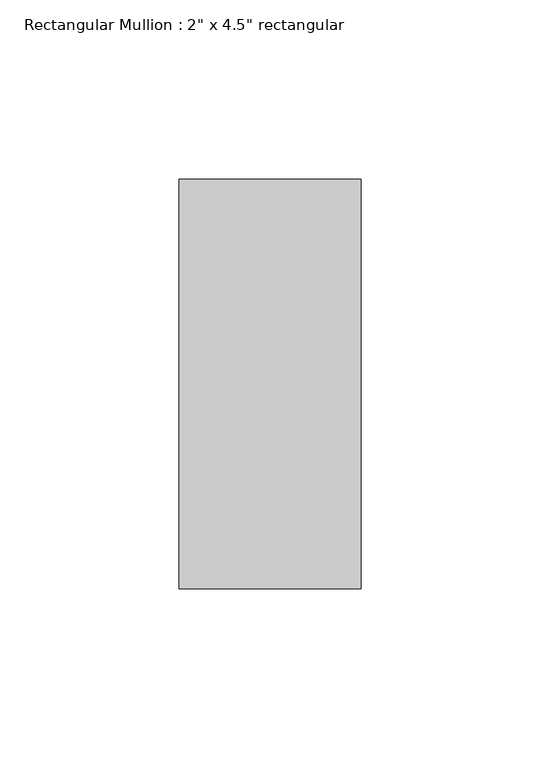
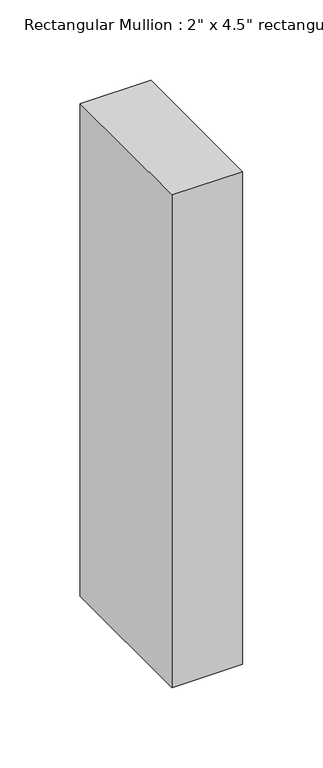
"""IFC4 building model written with IfcOpenShell, lengths in millimetres: member geometry."""

from ifc_helpers import new_model, si_unit, frame, origin, place, context, project, spatial, polyline, outline, extrude, source, transform, mapped, element, save


def member_1d3a199d(model_context):
    return source(origin(), model_context, "Body", "SweptSolid", [
        extrude(outline(polyline([(0.0, 57.15), (0.0, -57.15), (-50.8, -57.15), (-50.8, 57.15), (0.0, 57.15)])), frame((0.0, 0.0, -374.4028213), z_axis=(0.0, 0.0, 1.0), x_axis=(1.0, 0.0, 0.0)), (0.0, 0.0, 1.0), 374.4028213),
    ])


if __name__ == "__main__":
    model = new_model("IFC4")
    model_context = context("Model", 3, world=origin())
    ifc_project = project(units=[si_unit("LENGTHUNIT", "METRE", prefix="MILLI")], contexts=[model_context])
    site = spatial("IfcSite", under=ifc_project)
    building = spatial("IfcBuilding", under=site)
    placement = place(None, origin())
    member_shape = member_1d3a199d(model_context)
    element("IfcMember", 1, ObjectType="Rectangular Mullion : 2\" x 4.5\" rectangular", at=placement, inside=building, context=model_context, shape_type="MappedRepresentation", body=[
        mapped(member_shape, transform((0.0, 0.0, 0.0), x_axis=(1.0, 0.0, 0.0), y_axis=(0.0, 1.0, 0.0), z_axis=(0.0, 0.0, 1.0))),
    ])
    save(model, "model.ifc")
